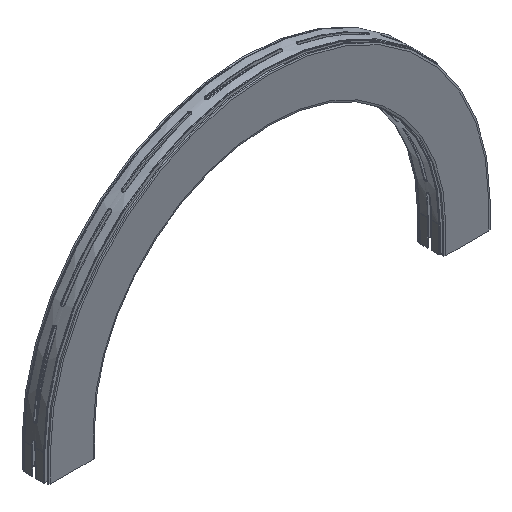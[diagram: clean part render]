
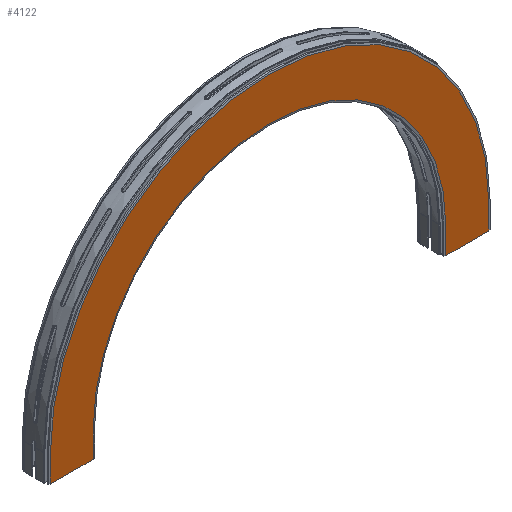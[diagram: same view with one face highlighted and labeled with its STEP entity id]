
A CAD part, isometric view. The second image highlights one B-rep face of the part: STEP entity #4122.
In plain terms, the highlighted planar face has unit normal (0, -1, 0).
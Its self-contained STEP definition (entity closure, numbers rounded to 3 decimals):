
#225=CIRCLE('',#4372,535.);
#226=CIRCLE('',#4374,665.);
#416=FACE_OUTER_BOUND('',#639,.T.);
#639=EDGE_LOOP('',(#2753,#2754,#2755,#2756,#2757,#2758,#2759,#2760));
#893=LINE('',#5714,#1291);
#897=LINE('',#5721,#1295);
#908=LINE('',#5754,#1306);
#909=LINE('',#5756,#1307);
#910=LINE('',#5757,#1308);
#911=LINE('',#5758,#1309);
#1291=VECTOR('',#4684,10.);
#1295=VECTOR('',#4690,10.);
#1306=VECTOR('',#4721,10.);
#1307=VECTOR('',#4722,10.);
#1308=VECTOR('',#4723,10.);
#1309=VECTOR('',#4724,10.);
#1689=VERTEX_POINT('',#5711);
#1690=VERTEX_POINT('',#5713);
#1692=VERTEX_POINT('',#5719);
#1701=VERTEX_POINT('',#5745);
#1702=VERTEX_POINT('',#5747);
#1703=VERTEX_POINT('',#5751);
#1704=VERTEX_POINT('',#5753);
#1705=VERTEX_POINT('',#5755);
#2101=EDGE_CURVE('',#1690,#1689,#893,.T.);
#2105=EDGE_CURVE('',#1692,#1689,#897,.T.);
#2118=EDGE_CURVE('',#1702,#1701,#225,.T.);
#2120=EDGE_CURVE('',#1703,#1692,#226,.T.);
#2121=EDGE_CURVE('',#1704,#1703,#908,.T.);
#2122=EDGE_CURVE('',#1704,#1705,#909,.T.);
#2123=EDGE_CURVE('',#1705,#1702,#910,.T.);
#2124=EDGE_CURVE('',#1701,#1690,#911,.T.);
#2753=ORIENTED_EDGE('',*,*,#2101,.T.);
#2754=ORIENTED_EDGE('',*,*,#2105,.F.);
#2755=ORIENTED_EDGE('',*,*,#2120,.F.);
#2756=ORIENTED_EDGE('',*,*,#2121,.F.);
#2757=ORIENTED_EDGE('',*,*,#2122,.T.);
#2758=ORIENTED_EDGE('',*,*,#2123,.T.);
#2759=ORIENTED_EDGE('',*,*,#2118,.T.);
#2760=ORIENTED_EDGE('',*,*,#2124,.T.);
#3979=PLANE('',#4373);
#4122=ADVANCED_FACE('',(#416),#3979,.T.);
#4372=AXIS2_PLACEMENT_3D('',#5748,#4714,#4715);
#4373=AXIS2_PLACEMENT_3D('',#5750,#4717,#4718);
#4374=AXIS2_PLACEMENT_3D('',#5752,#4719,#4720);
#4684=DIRECTION('',(1.,0.,0.));
#4690=DIRECTION('',(0.,0.,-1.));
#4714=DIRECTION('center_axis',(0.,1.,0.));
#4715=DIRECTION('ref_axis',(-1.,0.,0.));
#4717=DIRECTION('center_axis',(0.,-1.,0.));
#4718=DIRECTION('ref_axis',(0.,0.,1.));
#4719=DIRECTION('center_axis',(0.,1.,0.));
#4720=DIRECTION('ref_axis',(-1.,0.,0.));
#4721=DIRECTION('',(0.,0.,1.));
#4722=DIRECTION('',(1.,0.,0.));
#4723=DIRECTION('',(0.,0.,1.));
#4724=DIRECTION('',(0.,0.,-1.));
#5711=CARTESIAN_POINT('',(1304.001,-72.,0.));
#5713=CARTESIAN_POINT('',(1174.001,-72.,0.));
#5714=CARTESIAN_POINT('',(1208.001,-72.,0.));
#5719=CARTESIAN_POINT('',(1304.001,-72.,80.));
#5721=CARTESIAN_POINT('',(1304.001,-72.,2044.956));
#5745=CARTESIAN_POINT('',(1174.001,-72.,80.));
#5747=CARTESIAN_POINT('',(104.001,-72.,80.));
#5748=CARTESIAN_POINT('Origin',(639.001,-72.,80.));
#5750=CARTESIAN_POINT('Origin',(1174.001,-72.,2044.956));
#5751=CARTESIAN_POINT('',(-25.999,-72.,80.));
#5752=CARTESIAN_POINT('Origin',(639.001,-72.,80.));
#5753=CARTESIAN_POINT('',(-25.999,-72.,0.));
#5754=CARTESIAN_POINT('',(-25.999,-72.,0.));
#5755=CARTESIAN_POINT('',(104.001,-72.,0.));
#5756=CARTESIAN_POINT('',(-25.999,-72.,0.));
#5757=CARTESIAN_POINT('',(104.001,-72.,0.));
#5758=CARTESIAN_POINT('',(1174.001,-72.,2044.956));
